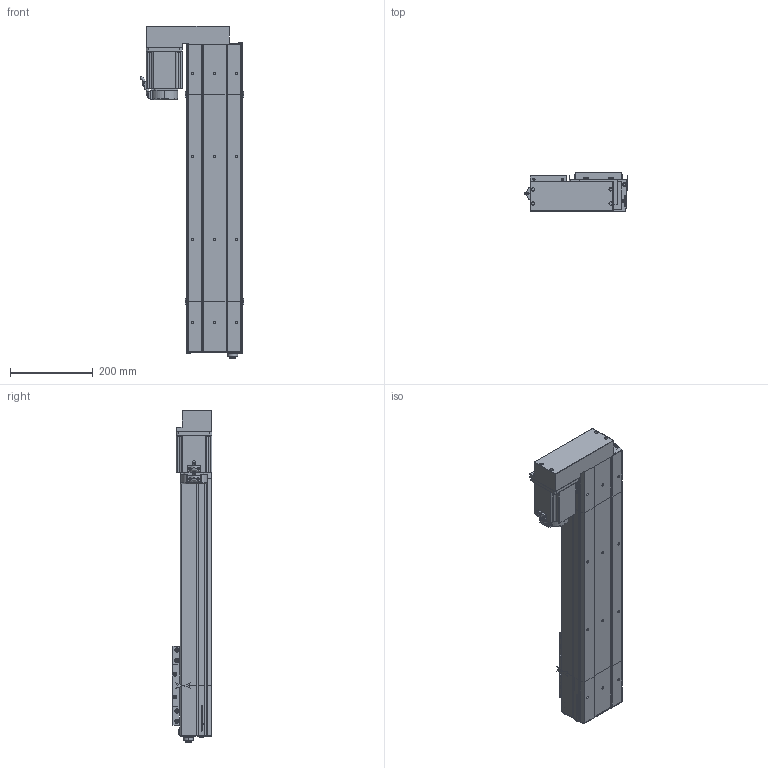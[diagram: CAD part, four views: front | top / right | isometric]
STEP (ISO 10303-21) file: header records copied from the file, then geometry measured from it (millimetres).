
FILE_DESCRIPTION (( 'STEP AP214' ), '1' );
FILE_NAME ('D14 CSH BR S500.STEP', '2010-06-29T15:09:03', ( 'Conseil Régional Haute-Normandie' ), ( 'Conseil Régional Haute-Normandie' ), 'SwSTEP 2.0', 'SolidWorks 2010', '' );
FILE_SCHEMA (( 'AUTOMOTIVE_DESIGN' ));
Length unit declared in the file: millimetre
Products named in the file (26): Vis CHC M8; couvercle tail; vis CHC M5; vis CHC M7; chariot supérieur D14; charriot inférieur D14; chariot D14; plaque de maintient D14; GMB 90 100 310; couvercle head d14; plaque de bout head d14 BR; plaque de bout tail d14; corps tail d14; Tail D14; couvercle CSH course S500; corps  CSH 500; course CSH S500; vis CHC M5.5; Conecteur_Default; Conecteur2_Default; codeur GMB 90 100 310; D14 CSH BR S500; corps GMB 90 100 310; avant GMB 90 100 310; corps head d14; Head D14  CSH BR
Assembly tree (48 placements, depth 4):
  D14 CSH BR S500
    Tail D14
      couvercle tail
      Vis CHC M8  x2
      corps tail d14
      vis CHC M7  x4
      plaque de maintient D14
      plaque de bout tail d14
    chariot D14
      vis CHC M7  x8
      vis CHC M5  x4
      chariot supérieur D14
      charriot inférieur D14
    Head D14  CSH BR
      vis CHC M5.5  x4
      GMB 90 100 310
        codeur GMB 90 100 310
        avant GMB 90 100 310
        Conecteur2_Default
        Conecteur_Default
        corps GMB 90 100 310
      vis CHC M7  x2
      plaque de maintient D14
      Vis CHC M8  x2
      corps head d14
      couvercle head d14
      plaque de bout head d14 BR
    course CSH S500
      couvercle CSH course S500
      corps  CSH 500
Bounding box: 250.75 x 95.75 x 801.3 mm (x, y, z)
Volume: 3618410.8 mm3; surface area: 953186.5 mm2
Topology: 49 solids, 49 shells, 2432 faces, 6243 edges, 4114 vertices
Faces by surface type: plane 1375, bspline 538, cylinder 406, torus 61, cone 52
Entity records: 107048 total; most frequent: CARTESIAN_POINT 57903, ORIENTED_EDGE 10738, DIRECTION 8000, EDGE_CURVE 5369, VECTOR 3626, LINE 3626, VERTEX_POINT 3562, EDGE_LOOP 2291
